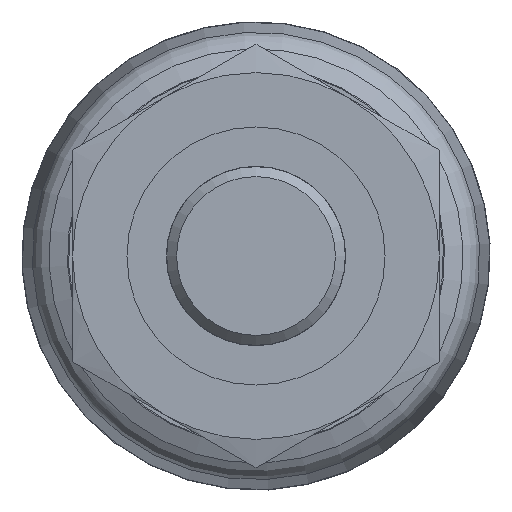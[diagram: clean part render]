
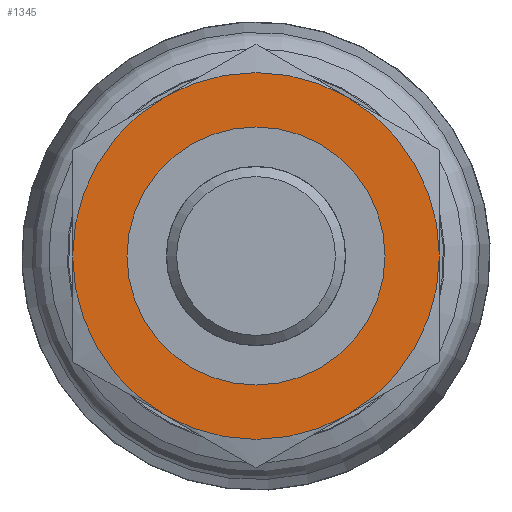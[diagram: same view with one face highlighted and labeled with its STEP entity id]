
A CAD part, left-side view. The second image highlights one B-rep face of the part: STEP entity #1345.
In plain terms, the highlighted planar face has unit normal (-1, 0, 0).
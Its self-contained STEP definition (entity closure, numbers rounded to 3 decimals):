
#82=FACE_BOUND('',#367,.T.);
#152=CIRCLE('',#1442,13.5);
#153=CIRCLE('',#1444,13.5);
#154=CIRCLE('',#1446,13.5);
#155=CIRCLE('',#1448,13.5);
#156=CIRCLE('',#1450,13.5);
#157=CIRCLE('',#1452,13.5);
#167=CIRCLE('',#1479,9.5);
#261=FACE_OUTER_BOUND('',#366,.T.);
#366=EDGE_LOOP('',(#1200,#1201,#1202,#1203,#1204,#1205));
#367=EDGE_LOOP('',(#1206));
#668=VERTEX_POINT('',#2119);
#670=VERTEX_POINT('',#2124);
#672=VERTEX_POINT('',#2131);
#673=VERTEX_POINT('',#2140);
#676=VERTEX_POINT('',#2151);
#677=VERTEX_POINT('',#2160);
#695=VERTEX_POINT('',#2261);
#824=EDGE_CURVE('',#670,#668,#152,.T.);
#828=EDGE_CURVE('',#672,#670,#153,.T.);
#830=EDGE_CURVE('',#668,#673,#154,.T.);
#834=EDGE_CURVE('',#676,#672,#155,.T.);
#836=EDGE_CURVE('',#673,#677,#156,.T.);
#839=EDGE_CURVE('',#677,#676,#157,.T.);
#868=EDGE_CURVE('',#695,#695,#167,.T.);
#1200=ORIENTED_EDGE('',*,*,#824,.T.);
#1201=ORIENTED_EDGE('',*,*,#830,.T.);
#1202=ORIENTED_EDGE('',*,*,#836,.T.);
#1203=ORIENTED_EDGE('',*,*,#839,.T.);
#1204=ORIENTED_EDGE('',*,*,#834,.T.);
#1205=ORIENTED_EDGE('',*,*,#828,.T.);
#1206=ORIENTED_EDGE('',*,*,#868,.T.);
#1263=PLANE('',#1480);
#1345=ADVANCED_FACE('',(#261,#82),#1263,.T.);
#1442=AXIS2_PLACEMENT_3D('',#2125,#1756,#1757);
#1444=AXIS2_PLACEMENT_3D('',#2138,#1760,#1761);
#1446=AXIS2_PLACEMENT_3D('',#2145,#1764,#1765);
#1448=AXIS2_PLACEMENT_3D('',#2158,#1768,#1769);
#1450=AXIS2_PLACEMENT_3D('',#2165,#1772,#1773);
#1452=AXIS2_PLACEMENT_3D('',#2174,#1776,#1777);
#1479=AXIS2_PLACEMENT_3D('',#2262,#1836,#1837);
#1480=AXIS2_PLACEMENT_3D('',#2263,#1838,#1839);
#1756=DIRECTION('center_axis',(-1.,0.,0.));
#1757=DIRECTION('ref_axis',(0.,0.,1.));
#1760=DIRECTION('center_axis',(-1.,0.,0.));
#1761=DIRECTION('ref_axis',(0.,0.,1.));
#1764=DIRECTION('center_axis',(-1.,0.,0.));
#1765=DIRECTION('ref_axis',(0.,0.,1.));
#1768=DIRECTION('center_axis',(-1.,0.,0.));
#1769=DIRECTION('ref_axis',(0.,0.,1.));
#1772=DIRECTION('center_axis',(-1.,0.,0.));
#1773=DIRECTION('ref_axis',(0.,0.,1.));
#1776=DIRECTION('center_axis',(-1.,0.,0.));
#1777=DIRECTION('ref_axis',(0.,0.,1.));
#1836=DIRECTION('center_axis',(1.,0.,0.));
#1837=DIRECTION('ref_axis',(0.,1.,0.));
#1838=DIRECTION('center_axis',(-1.,0.,0.));
#1839=DIRECTION('ref_axis',(0.,0.,1.));
#2119=CARTESIAN_POINT('',(-24.,-6.75,-11.691));
#2124=CARTESIAN_POINT('',(-24.,6.75,-11.691));
#2125=CARTESIAN_POINT('Origin',(-24.,0.,0.));
#2131=CARTESIAN_POINT('',(-24.,13.5,0.));
#2138=CARTESIAN_POINT('Origin',(-24.,0.,0.));
#2140=CARTESIAN_POINT('',(-24.,-13.5,0.));
#2145=CARTESIAN_POINT('Origin',(-24.,0.,0.));
#2151=CARTESIAN_POINT('',(-24.,6.75,11.691));
#2158=CARTESIAN_POINT('Origin',(-24.,0.,0.));
#2160=CARTESIAN_POINT('',(-24.,-6.75,11.691));
#2165=CARTESIAN_POINT('Origin',(-24.,0.,0.));
#2174=CARTESIAN_POINT('Origin',(-24.,0.,0.));
#2261=CARTESIAN_POINT('',(-24.,9.5,0.));
#2262=CARTESIAN_POINT('Origin',(-24.,0.,0.));
#2263=CARTESIAN_POINT('Origin',(-24.,11.5,0.));
